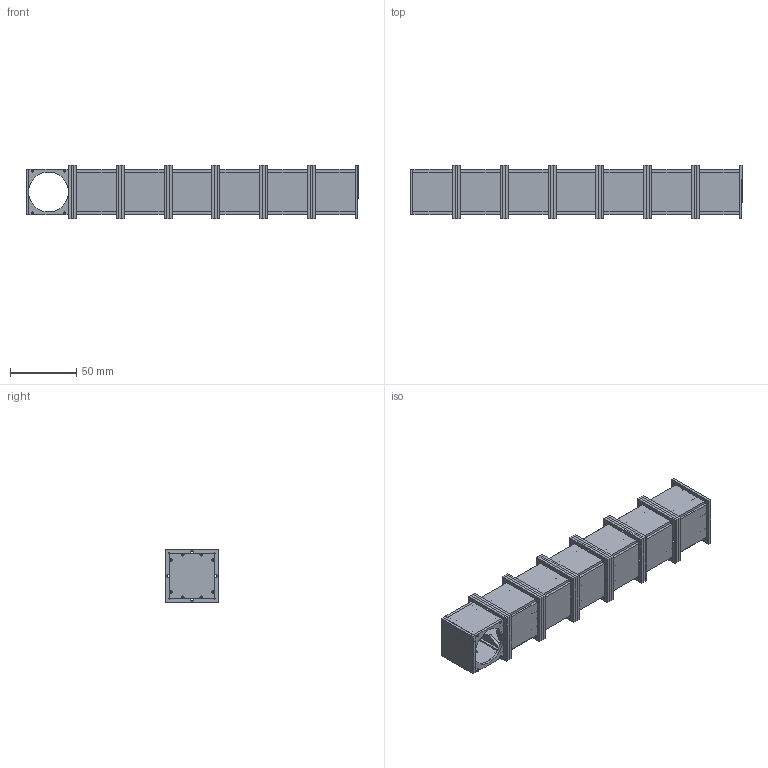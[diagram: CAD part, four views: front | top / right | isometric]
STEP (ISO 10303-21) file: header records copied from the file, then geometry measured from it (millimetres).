
FILE_DESCRIPTION (( 'STEP AP214' ), '1' );
FILE_NAME ('Assiem_guida.STEP', '2016-02-28T08:32:47', ( '' ), ( '' ), 'SwSTEP 2.0', 'SolidWorks 2012', '' );
FILE_SCHEMA (( 'AUTOMOTIVE_DESIGN' ));
Length unit declared in the file: millimetre
Products named in the file (13): assieme cella; G_2; G11; assieme guida; G_2_pla; Assiem_guida; G_1; G8; G9; G_2_prima; G10; assieme cella_uscita; vite M1 x 5
Assembly tree (40 placements, depth 4):
  Assiem_guida
    assieme guida
      assieme cella  x5
        G11
        G_2_pla
        G_2
      G_1  x7
      assieme cella_uscita
        G11  x4
        G_2_pla
      vite M1 x 5  x4
    G10  x4
    G9  x2
    G8
    vite M1 x 5  x3
    G_2_prima
Bounding box: 250 x 40 x 40 mm (x, y, z)
Volume: 84763 mm3; surface area: 107490.3 mm2
Topology: 57 solids, 57 shells, 4497 faces, 11729 edges, 7654 vertices
Faces by surface type: plane 1466, bspline 1241, cylinder 898, cone 892
Entity records: 35820 total; most frequent: CARTESIAN_POINT 16451, ORIENTED_EDGE 4100, DIRECTION 3456, EDGE_CURVE 2050, VERTEX_POINT 1322, AXIS2_PLACEMENT_3D 1183, LINE 1090, VECTOR 1090
